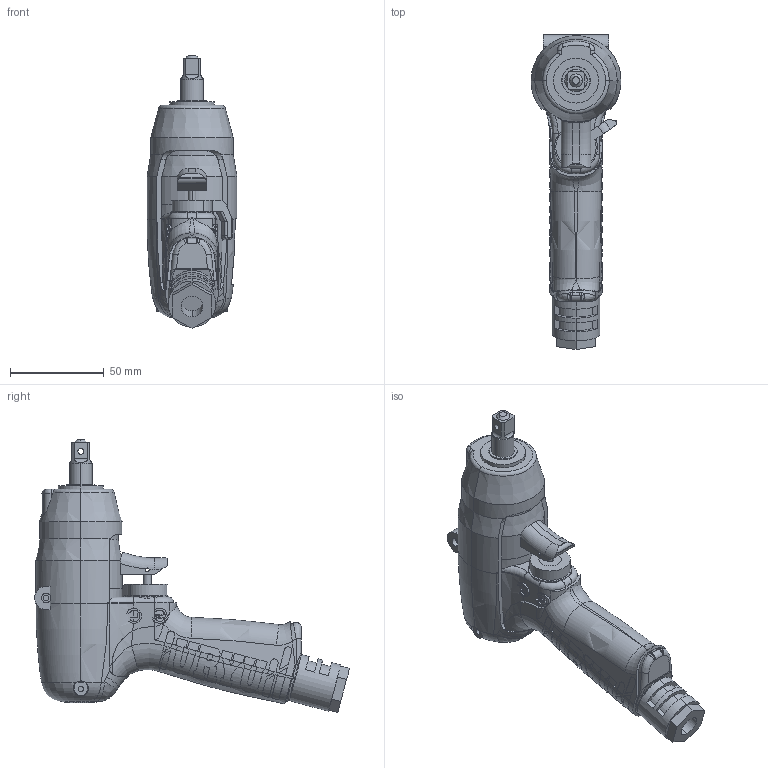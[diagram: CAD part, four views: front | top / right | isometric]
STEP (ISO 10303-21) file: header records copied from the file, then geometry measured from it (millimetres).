
FILE_DESCRIPTION (( 'STEP AP203' ), '1' );
FILE_NAME ('UL50.step', '2006-01-30T05:46:46', ( '山田　善嗣' ), ( 'TECH' ), 'SwSTEP 2.0', 'SolidWorks 2004073', '' );
FILE_SCHEMA (( 'CONFIG_CONTROL_DESIGN' ));
Length unit declared in the file: millimetre
Products named in the file (8): 1478422_UL50_蹬怮椔; UL50; 4802128_UL50_蹬怮椔; 1438403_UL50_蹬怮椔; 1471072_UL50_蹬怮椔; 1430253_UL50_蹬怮椔; 1434393_UL50_蹬怮椔; 1434543_UL50_蹬怮椔
Assembly tree (7 placements, depth 2):
  UL50
    1438403_UL50_蹬怮椔
    4802128_UL50_蹬怮椔
    1434393_UL50_蹬怮椔
    1430253_UL50_蹬怮椔
    1471072_UL50_蹬怮椔
    1434543_UL50_蹬怮椔
    1478422_UL50_蹬怮椔
Bounding box: 48 x 168.02 x 145.55 mm (x, y, z)
Volume: 279647.9 mm3; surface area: 83832.2 mm2
Topology: 7 solids, 7 shells, 1260 faces, 3521 edges, 2291 vertices
Faces by surface type: plane 767, cylinder 248, bspline 161, torus 62, cone 16, sphere 6
Entity records: 101399 total; most frequent: CARTESIAN_POINT 71231, ORIENTED_EDGE 7034, DIRECTION 4799, EDGE_CURVE 3517, VERTEX_POINT 2291, AXIS2_PLACEMENT_3D 1641, VECTOR 1517, LINE 1517
